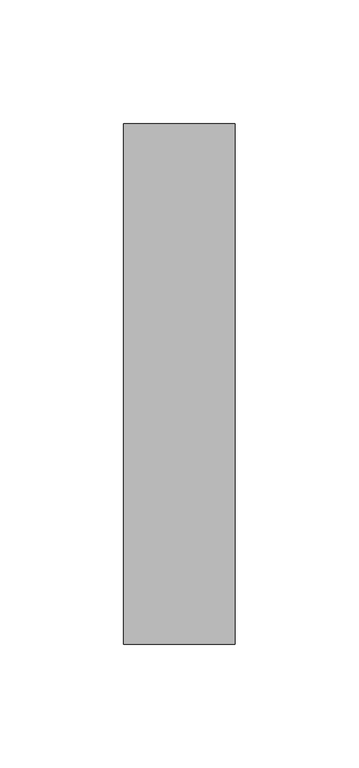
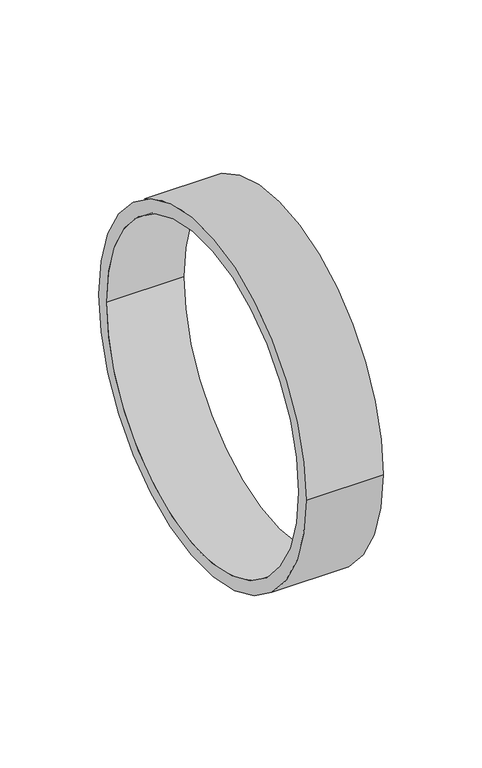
"""IFC4 building model written with IfcOpenShell, lengths in millimetres: duct fitting geometry, HEATPEX - ARIA ADURO - Adapter króćca do rekuperatora : 210/160."""

from ifc_helpers import new_model, si_unit, point, frame, origin, origin_2d, place, context, project, spatial, circle_curve, trimmed, segment, composite_curve, outline, extrude, source, transform, mapped, element, save


def duct_fitting_16796d55(model_context):
    return source(origin(), model_context, "Body", "SweptSolid", [
        extrude(outline(composite_curve([segment(trimmed(circle_curve(origin_2d(), 105.0), [point((-105.0, 0.0))], [point((105.0, 0.0))], False, "CARTESIAN"), True, "CONTINUOUS"), segment(trimmed(circle_curve(origin_2d(), 105.0), [point((105.0, 0.0))], [point((-105.0, 0.0))], False, "CARTESIAN"), True, "CONTINUOUS")], self_intersect=False), holes=[composite_curve([segment(trimmed(circle_curve(origin_2d(), 97.0), [point((-97.0, 0.0))], [point((97.0, 0.0))], True, "CARTESIAN"), True, "CONTINUOUS"), segment(trimmed(circle_curve(origin_2d(), 97.0), [point((97.0, 0.0))], [point((-97.0, 0.0))], True, "CARTESIAN"), True, "CONTINUOUS")], self_intersect=False)]), frame((-22.5, 0.0, 0.0), z_axis=(1.0, 0.0, 0.0), x_axis=(0.0, 1.0, 0.0)), (0.0, 0.0, 1.0), 45.0),
    ])


if __name__ == "__main__":
    model = new_model("IFC4")
    model_context = context("Model", 3, world=origin())
    ifc_project = project(units=[si_unit("LENGTHUNIT", "METRE", prefix="MILLI")], contexts=[model_context])
    site = spatial("IfcSite", under=ifc_project)
    building = spatial("IfcBuilding", under=site)
    placement = place(None, origin())
    duct_fitting_shape = duct_fitting_16796d55(model_context)
    element("IfcDuctFitting", 1, ObjectType="HEATPEX - ARIA ADURO - Adapter króćca do rekuperatora : 210/160", at=placement, inside=building, context=model_context, shape_type="MappedRepresentation", body=[
        mapped(duct_fitting_shape, transform((0.0, 0.0, 0.0), x_axis=(1.0, 0.0, 0.0), y_axis=(0.0, 1.0, 0.0), z_axis=(0.0, 0.0, 1.0))),
    ])
    save(model, "model.ifc")
